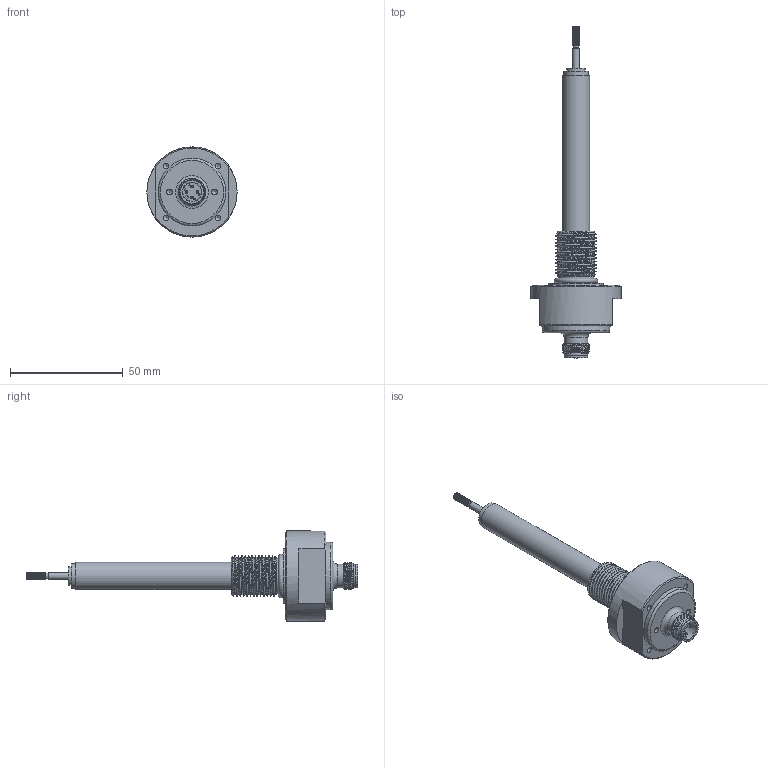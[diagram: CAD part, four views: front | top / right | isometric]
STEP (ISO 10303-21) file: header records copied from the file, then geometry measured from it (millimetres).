
FILE_DESCRIPTION( ( 'Unknown' ), '1' );
FILE_NAME( 'N:/Engineering/CAD/LVDT/HYD/Kunden-3D-Modell/SM25-HYD-M-18-S-M12.stp', 'Unknown', ( 'Unknown' ), ( 'Unknown' ), 'PSStep 17.0.49', 'Unknown', ' ' );
FILE_SCHEMA( ( 'AUTOMOTIVE_DESIGN { 1 0 10303 214 1 1 1 1 }' ) );
Length unit declared in the file: millimetre
Products named in the file (11): Einbaustecker_Waycon; Einbausteckverbinder_Waycon; Kontaktstift_M12; Assem1; Endkappe; Innenrohr_SM5-HYD; Kernverlängerung_SM5-HYD; SM-HYD-Flansch_M18_vereinfacht; O-Ring_15,4x2,1; Endkappe_HYD-KA_vereinfacht; Aussenrohr_SM25-HYD-M_vereinfacht
Assembly tree (13 placements, depth 3):
  Assem1
    Endkappe
    Innenrohr_SM5-HYD
    Kernverlängerung_SM5-HYD
    SM-HYD-Flansch_M18_vereinfacht
    O-Ring_15,4x2,1
    Endkappe_HYD-KA_vereinfacht
    Aussenrohr_SM25-HYD-M_vereinfacht
    Einbaustecker_Waycon
      Einbausteckverbinder_Waycon
      Kontaktstift_M12  x4
Bounding box: 40 x 147.2 x 40 mm (x, y, z)
Volume: 38973.1 mm3; surface area: 19017.3 mm2
Topology: 12 solids, 12 shells, 261 faces, 583 edges, 383 vertices
Faces by surface type: plane 122, cylinder 68, cone 37, extrusion 18, bspline 8, torus 8
Full cylindrical faces by diameter (mm): 0.5 x4, 1 x12, 1.2 x8, 1.8 x4, 2.013 x1, 2.4 x1, 2.5 x4, 2.6 x2, 3 x1, 4 x1, 6 x2, 8 x2, 8.2 x1, 8.3 x1, 9 x1, 9.35 x1, 9.55 x1, 10 x1, 10.05 x1, 10.5 x1, 10.6 x2, 11 x2, 12 x2, 15.8 x1, 22.5 x1, 24 x2, 30 x1, 40 x1
Entity records: 14294 total; most frequent: CARTESIAN_POINT 7955, DIRECTION 870, ORIENTED_EDGE 796, EDGE_CURVE 398, EDGE_LOOP 331, AXIS2_PLACEMENT_3D 327, VERTEX_POINT 309, FACE_OUTER_BOUND 264
